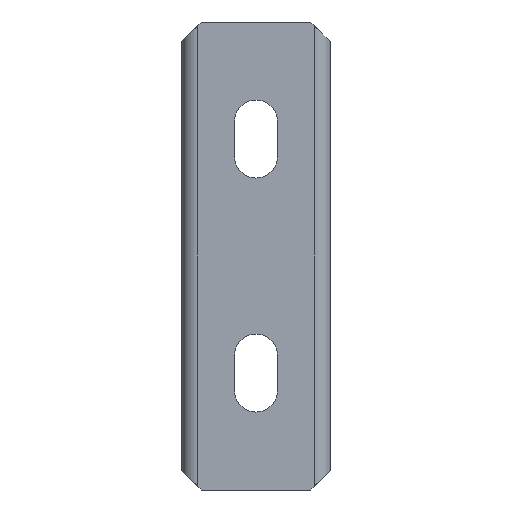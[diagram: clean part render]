
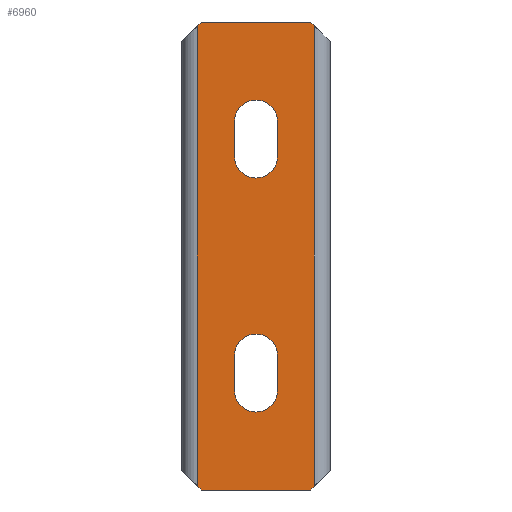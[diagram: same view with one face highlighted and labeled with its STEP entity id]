
A CAD part, left-side view. The second image highlights one B-rep face of the part: STEP entity #6960.
In plain terms, the highlighted planar face has unit normal (-1, 0, 0).
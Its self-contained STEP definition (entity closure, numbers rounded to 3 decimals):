
#60=CARTESIAN_POINT('',(0.,0.,0.));
#70=DIRECTION('',(0.,1.,0.));
#80=VECTOR('',#70,1.);
#90=LINE('',#60,#80);
#100=CARTESIAN_POINT('',(0.,5.,0.));
#110=VERTEX_POINT('',#100);
#120=CARTESIAN_POINT('',(0.,33.,0.));
#130=VERTEX_POINT('',#120);
#140=EDGE_CURVE('',#110,#130,#90,.T.);
#460=CARTESIAN_POINT('',(0.,33.,0.));
#470=DIRECTION('',(0.,-0.707,0.707));
#480=VECTOR('',#470,1.);
#490=LINE('',#460,#480);
#500=CARTESIAN_POINT('',(0.,34.,-1.));
#510=VERTEX_POINT('',#500);
#520=EDGE_CURVE('',#510,#130,#490,.T.);
#1570=CARTESIAN_POINT('',(0.,4.,-1.));
#1580=VERTEX_POINT('',#1570);
#1610=CARTESIAN_POINT('',(0.,5.,0.));
#1620=DIRECTION('',(0.,0.707,0.707));
#1630=VECTOR('',#1620,1.);
#1640=LINE('',#1610,#1630);
#1650=EDGE_CURVE('',#1580,#110,#1640,.T.);
#1900=CARTESIAN_POINT('',(0.,33.,-120.));
#1910=VERTEX_POINT('',#1900);
#1940=CARTESIAN_POINT('',(0.,0.,-120.));
#1950=DIRECTION('',(0.,1.,0.));
#1960=VECTOR('',#1950,1.);
#1970=LINE('',#1940,#1960);
#1980=CARTESIAN_POINT('',(0.,5.,-120.));
#1990=VERTEX_POINT('',#1980);
#2000=EDGE_CURVE('',#1990,#1910,#1970,.T.);
#2620=CARTESIAN_POINT('',(0.,34.,-119.));
#2630=VERTEX_POINT('',#2620);
#2660=CARTESIAN_POINT('',(-0.,153.,0.));
#2670=DIRECTION('',(0.,-0.707,-0.707));
#2680=VECTOR('',#2670,1.);
#2690=LINE('',#2660,#2680);
#2700=EDGE_CURVE('',#2630,#1910,#2690,.T.);
#2810=CARTESIAN_POINT('',(0.,-115.,0.));
#2820=DIRECTION('',(0.,0.707,-0.707));
#2830=VECTOR('',#2820,1.);
#2840=LINE('',#2810,#2830);
#2850=CARTESIAN_POINT('',(0.,4.,-119.));
#2860=VERTEX_POINT('',#2850);
#2870=EDGE_CURVE('',#2860,#1990,#2840,.T.);
#3540=CARTESIAN_POINT('',(0.,4.,0.));
#3550=DIRECTION('',(-0.,-0.,-1.));
#3560=VECTOR('',#3550,1.);
#3570=LINE('',#3540,#3560);
#3580=EDGE_CURVE('',#1580,#2860,#3570,.T.);
#5980=CARTESIAN_POINT('',(0.,34.,0.));
#5990=DIRECTION('',(-0.,-0.,-1.));
#6000=VECTOR('',#5990,1.);
#6010=LINE('',#5980,#6000);
#6020=EDGE_CURVE('',#510,#2630,#6010,.T.);
#6090=CARTESIAN_POINT('',(0.,4.,0.));
#6100=DIRECTION('',(1.,0.,0.));
#6110=DIRECTION('',(0.,-1.,0.));
#6120=AXIS2_PLACEMENT_3D('',#6090,#6100,#6110);
#6130=PLANE('',#6120);
#6140=ORIENTED_EDGE('',*,*,#520,.F.);
#6150=ORIENTED_EDGE('',*,*,#140,.T.);
#6160=ORIENTED_EDGE('',*,*,#1650,.T.);
#6170=ORIENTED_EDGE('',*,*,#3580,.F.);
#6180=ORIENTED_EDGE('',*,*,#2870,.F.);
#6190=ORIENTED_EDGE('',*,*,#2000,.F.);
#6200=ORIENTED_EDGE('',*,*,#2700,.T.);
#6210=ORIENTED_EDGE('',*,*,#6020,.T.);
#6220=EDGE_LOOP('',(#6210,#6200,#6190,#6180,#6170,#6160,#6150,#6140));
#6230=FACE_OUTER_BOUND('',#6220,.T.);
#6240=CARTESIAN_POINT('',(0.,24.5,0.));
#6250=DIRECTION('',(0.,-0.,1.));
#6260=VECTOR('',#6250,1.);
#6270=LINE('',#6240,#6260);
#6280=CARTESIAN_POINT('',(0.,24.5,-34.5));
#6290=VERTEX_POINT('',#6280);
#6300=CARTESIAN_POINT('',(0.,24.5,-25.5));
#6310=VERTEX_POINT('',#6300);
#6320=EDGE_CURVE('',#6290,#6310,#6270,.T.);
#6330=ORIENTED_EDGE('',*,*,#6320,.T.);
#6340=CARTESIAN_POINT('',(0.,19.,-34.5));
#6350=DIRECTION('',(-1.,-0.,0.));
#6360=DIRECTION('',(0.,0.,-1.));
#6370=AXIS2_PLACEMENT_3D('',#6340,#6350,#6360);
#6380=CIRCLE('',#6370,5.5);
#6390=CARTESIAN_POINT('',(0.,13.5,-34.5));
#6400=VERTEX_POINT('',#6390);
#6410=EDGE_CURVE('',#6290,#6400,#6380,.T.);
#6420=ORIENTED_EDGE('',*,*,#6410,.F.);
#6430=CARTESIAN_POINT('',(-0.,13.5,0.));
#6440=DIRECTION('',(0.,-0.,-1.));
#6450=VECTOR('',#6440,1.);
#6460=LINE('',#6430,#6450);
#6470=CARTESIAN_POINT('',(0.,13.5,-25.5));
#6480=VERTEX_POINT('',#6470);
#6490=EDGE_CURVE('',#6480,#6400,#6460,.T.);
#6500=ORIENTED_EDGE('',*,*,#6490,.T.);
#6510=CARTESIAN_POINT('',(0.,19.,-25.5));
#6520=DIRECTION('',(1.,0.,0.));
#6530=DIRECTION('',(0.,0.,-1.));
#6540=AXIS2_PLACEMENT_3D('',#6510,#6520,#6530);
#6550=CIRCLE('',#6540,5.5);
#6560=EDGE_CURVE('',#6310,#6480,#6550,.T.);
#6570=ORIENTED_EDGE('',*,*,#6560,.T.);
#6580=EDGE_LOOP('',(#6570,#6500,#6420,#6330));
#6590=FACE_BOUND('',#6580,.T.);
#6600=CARTESIAN_POINT('',(0.,19.,-94.5));
#6610=DIRECTION('',(-1.,-0.,0.));
#6620=DIRECTION('',(0.,0.,-1.));
#6630=AXIS2_PLACEMENT_3D('',#6600,#6610,#6620);
#6640=CIRCLE('',#6630,5.5);
#6650=CARTESIAN_POINT('',(0.,24.5,-94.5));
#6660=VERTEX_POINT('',#6650);
#6670=CARTESIAN_POINT('',(0.,13.5,-94.5));
#6680=VERTEX_POINT('',#6670);
#6690=EDGE_CURVE('',#6660,#6680,#6640,.T.);
#6700=ORIENTED_EDGE('',*,*,#6690,.F.);
#6710=CARTESIAN_POINT('',(-0.,13.5,0.));
#6720=DIRECTION('',(0.,-0.,-1.));
#6730=VECTOR('',#6720,1.);
#6740=LINE('',#6710,#6730);
#6750=CARTESIAN_POINT('',(0.,13.5,-85.5));
#6760=VERTEX_POINT('',#6750);
#6770=EDGE_CURVE('',#6760,#6680,#6740,.T.);
#6780=ORIENTED_EDGE('',*,*,#6770,.T.);
#6790=CARTESIAN_POINT('',(0.,19.,-85.5));
#6800=DIRECTION('',(1.,0.,0.));
#6810=DIRECTION('',(0.,0.,-1.));
#6820=AXIS2_PLACEMENT_3D('',#6790,#6800,#6810);
#6830=CIRCLE('',#6820,5.5);
#6840=CARTESIAN_POINT('',(0.,24.5,-85.5));
#6850=VERTEX_POINT('',#6840);
#6860=EDGE_CURVE('',#6850,#6760,#6830,.T.);
#6870=ORIENTED_EDGE('',*,*,#6860,.T.);
#6880=CARTESIAN_POINT('',(0.,24.5,0.));
#6890=DIRECTION('',(0.,-0.,1.));
#6900=VECTOR('',#6890,1.);
#6910=LINE('',#6880,#6900);
#6920=EDGE_CURVE('',#6660,#6850,#6910,.T.);
#6930=ORIENTED_EDGE('',*,*,#6920,.T.);
#6940=EDGE_LOOP('',(#6930,#6870,#6780,#6700));
#6950=FACE_BOUND('',#6940,.T.);
#6960=ADVANCED_FACE('',(#6230,#6590,#6950),#6130,.F.);
